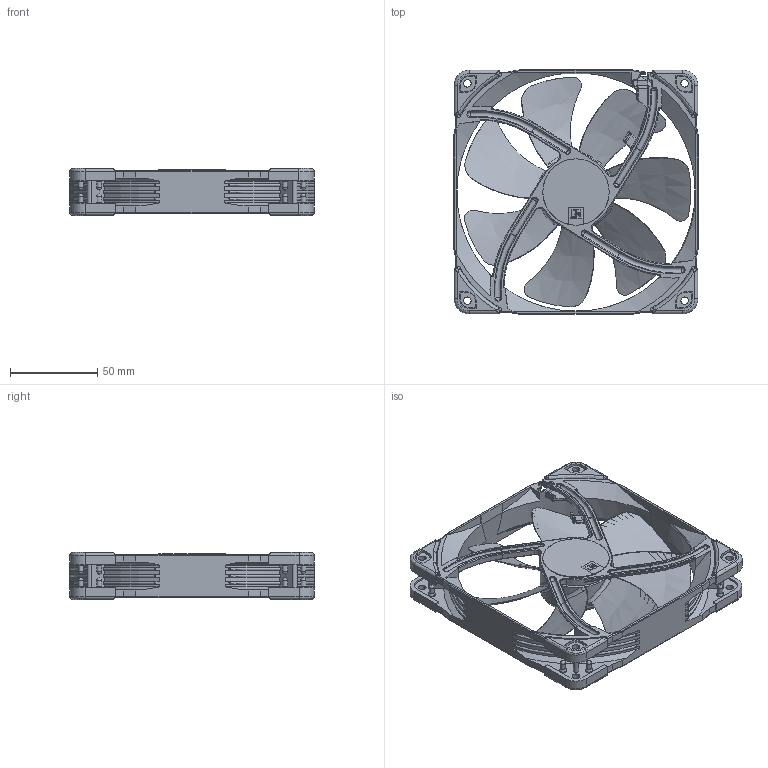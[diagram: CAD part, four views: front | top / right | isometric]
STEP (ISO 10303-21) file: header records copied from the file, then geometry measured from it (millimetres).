
FILE_DESCRIPTION(/* description */ ('140mm Desk Fan'),/* implementation_level */ '2;1');
FILE_NAME(/* name */ 'NF-A14_chromax_Public-CAD',/* time_stamp */ '2026-04-10T15:17:55+02:00',/* author */ ('Andreas'),/* organization */ ('Rascom'),/* preprocessor_version */ 'ST-DEVELOPER v18.102',/* originating_system */ 'Solid Edge',/* authorisation */ 'Unknown');
FILE_SCHEMA (('AUTOMOTIVE_DESIGN {1 0 10303 214 3 1 1}'));
Products named in the file (6): NF-A14_chromax_Public-CAD; NF-A14_Public-CAD; A14_Frame_Public; A14_Impeller_Public; NA-AVP1; Fan-Label-D38mm-Chromax
Assembly tree (12 placements, depth 3):
  NF-A14_chromax_Public-CAD
    NF-A14_Public-CAD
      A14_Frame_Public
      A14_Impeller_Public
      NA-AVP1  x8
    Fan-Label-D38mm-Chromax
Bounding box: 140 x 140.1 x 27 mm (x, y, z)
Volume: 108474.1 mm3; surface area: 89994.9 mm2
Topology: 11 solids, 11 shells, 1431 faces, 3747 edges, 2353 vertices
Faces by surface type: cylinder 515, plane 467, torus 176, bspline 164, cone 69, sphere 40
Full cylindrical faces by diameter (mm): 3 x32, 4 x8, 4.3 x8, 38 x2, 41 x1
Entity records: 47450 total; most frequent: CARTESIAN_POINT 21142, ORIENTED_EDGE 5698, DIRECTION 4935, EDGE_CURVE 2849, AXIS2_PLACEMENT_3D 1912, VERTEX_POINT 1812, EDGE_LOOP 1229, FACE_BOUND 1229
